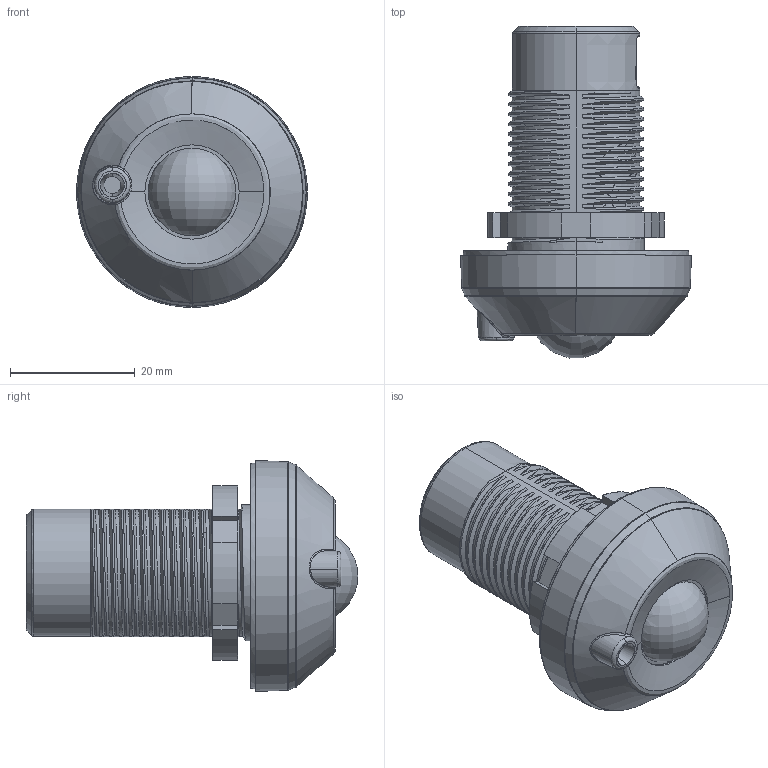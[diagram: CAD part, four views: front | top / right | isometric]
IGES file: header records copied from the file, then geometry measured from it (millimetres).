
Start section: SolidWorks IGES file using analytic representation for surfaces
Global section: file name: C:\Users\Public\HAOSENSOFTWARE\YFTSolidWorksArasPLM-V3.1.3-2023-beta\SaveAs_files\9C1-4549547-000-00.IGS; native system: SolidWorks 2023; preprocessor: SolidWorks 2023; author: P.SACHSENWEGER; date: 250808.143635; units: millimetre
Bounding box: 36.99 x 53.18 x 36.99 mm (x, y, z)
Surface area: 7528.8 mm2 (no closed solid volume)
Topology: 0 solids, 0 shells, 316 faces, 5088 edges, 5088 vertices
Faces by surface type: bspline 199, revolution 117
